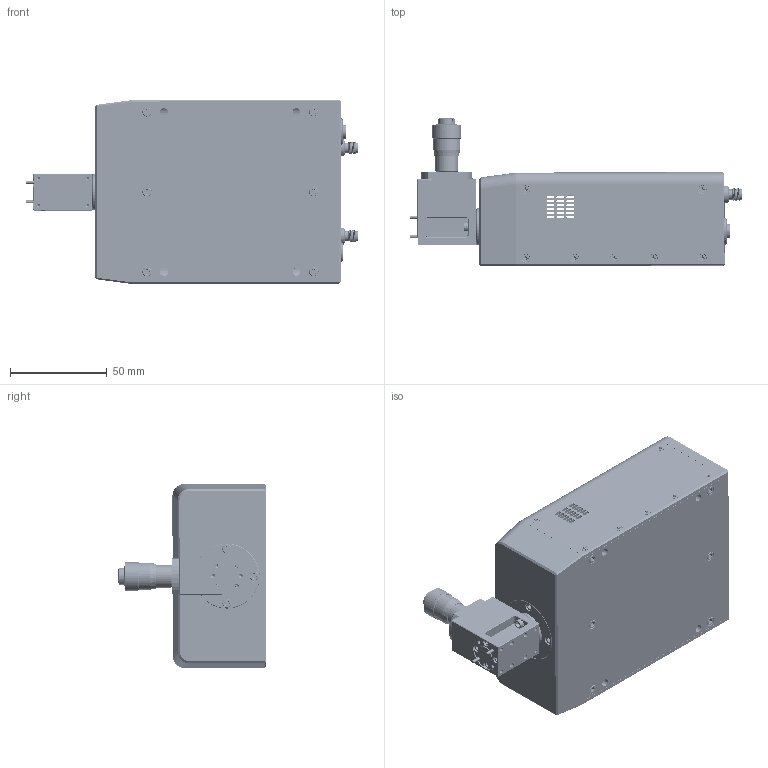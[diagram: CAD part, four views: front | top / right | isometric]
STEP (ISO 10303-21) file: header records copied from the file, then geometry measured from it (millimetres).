
FILE_DESCRIPTION (( 'STEP AP214' ), '1' );
FILE_NAME ('TO-RD-A Mountable.STEP', '2024-10-29T21:47:39', ( '' ), ( '' ), 'SwSTEP 2.0', 'SolidWorks 2021', '' );
FILE_SCHEMA (( 'AUTOMOTIVE_DESIGN' ));
Length unit declared in the file: inch
Products named in the file (1): TO-RD-A Mountable
Bounding box: 171.94 x 76.88 x 95.36 mm (x, y, z)
Volume: 231120.5 mm3; surface area: 125519.8 mm2
Topology: 62 solids, 67 shells, 4232 faces, 11213 edges, 7124 vertices
Faces by surface type: cylinder 1977, plane 1191, cone 756, bspline 271, sphere 21, torus 16
Entity records: 269913 total; most frequent: CARTESIAN_POINT 118879, ORIENTED_EDGE 22084, DIRECTION 17548, EDGE_CURVE 11042, VERTEX_POINT 7118, AXIS2_PLACEMENT_3D 6658, EDGE_LOOP 4662, DIMENSIONAL_EXPONENTS 4296
